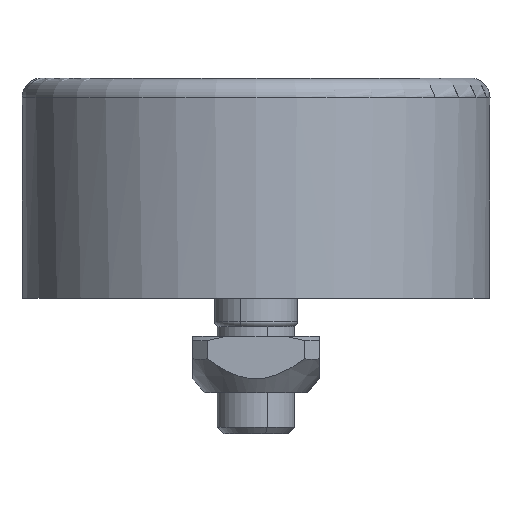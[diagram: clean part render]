
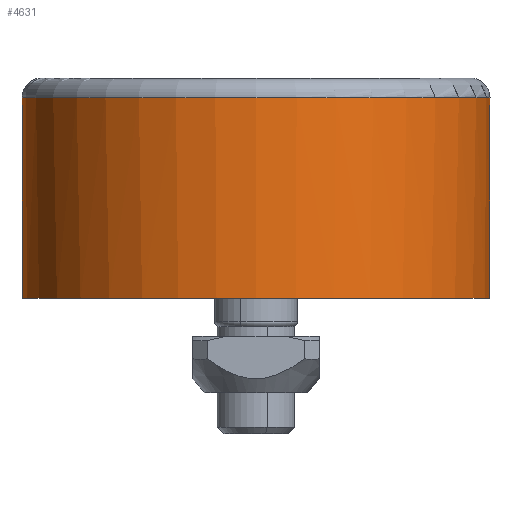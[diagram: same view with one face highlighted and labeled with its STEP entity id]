
A CAD part, left-side view. The second image highlights one B-rep face of the part: STEP entity #4631.
In plain terms, the highlighted cylindrical face has radius 24 mm (diameter 48 mm), a partial arc.
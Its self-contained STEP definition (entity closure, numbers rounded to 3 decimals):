
#239 = CARTESIAN_POINT ( 'NONE',  ( -210.115, -3.173, 16.549 ) ) ;
#609 = DIRECTION ( 'NONE',  ( -1., 0., 0. ) ) ;
#623 = CARTESIAN_POINT ( 'NONE',  ( -206.123, -49.969, 18.066 ) ) ;
#688 = CARTESIAN_POINT ( 'NONE',  ( -210.115, -50.798, 16.549 ) ) ;
#820 = CARTESIAN_POINT ( 'NONE',  ( -205.14, -49.649, 18.4 ) ) ;
#1263 = CARTESIAN_POINT ( 'NONE',  ( -206.123, -4.002, 18.066 ) ) ;
#1288 = ORIENTED_EDGE ( 'NONE', *, *, #1897, .F. ) ;
#1370 = FACE_OUTER_BOUND ( 'NONE', #6842, .T. ) ;
#1427 = CYLINDRICAL_SURFACE ( 'NONE', #10050, 24. ) ;
#1550 = CARTESIAN_POINT ( 'NONE',  ( -213.109, -26.986, 25.68 ) ) ;
#1581 = DIRECTION ( 'NONE',  ( 0., 0., -1. ) ) ;
#1665 = EDGE_CURVE ( 'NONE', #7204, #4358, #5493, .T. ) ;
#1741 = VECTOR ( 'NONE', #6844, 1000. ) ;
#1754 = AXIS2_PLACEMENT_3D ( 'NONE', #1550, #4129, #9816 ) ;
#1845 = CARTESIAN_POINT ( 'NONE',  ( -204.159, -4.717, 18.668 ) ) ;
#1897 = EDGE_CURVE ( 'NONE', #9973, #2841, #11030, .T. ) ;
#2133 = VERTEX_POINT ( 'NONE', #1845 ) ;
#2201 = VERTEX_POINT ( 'NONE', #9553 ) ;
#2411 = CARTESIAN_POINT ( 'NONE',  ( -204.159, -4.717, 18.668 ) ) ;
#2528 = CARTESIAN_POINT ( 'NONE',  ( -195.002, -10.32, 22.473 ) ) ;
#2615 = ORIENTED_EDGE ( 'NONE', *, *, #3740, .T. ) ;
#2841 = VERTEX_POINT ( 'NONE', #9202 ) ;
#2966 = CARTESIAN_POINT ( 'NONE',  ( -209.111, -3.316, 16.946 ) ) ;
#3442 = B_SPLINE_CURVE_WITH_KNOTS ( 'NONE', 3,
 ( #9520, #10474, #1263, #7510, #11219, #2966, #5882, #239 ),
 .UNSPECIFIED., .F., .F.,
 ( 4, 2, 2, 4 ),
 ( 0., 0.003, 0.005, 0.007 ),
 .UNSPECIFIED. ) ;
#3740 = EDGE_CURVE ( 'NONE', #7261, #2841, #7797, .T. ) ;
#3745 = EDGE_CURVE ( 'NONE', #2201, #8408, #7498, .T. ) ;
#3912 = ORIENTED_EDGE ( 'NONE', *, *, #6675, .T. ) ;
#4129 = DIRECTION ( 'NONE',  ( 0., 0., -1. ) ) ;
#4143 = EDGE_CURVE ( 'NONE', #2133, #8408, #11738, .T. ) ;
#4160 = LINE ( 'NONE', #5084, #7646 ) ;
#4335 = ORIENTED_EDGE ( 'NONE', *, *, #11536, .T. ) ;
#4358 = VERTEX_POINT ( 'NONE', #6631 ) ;
#4388 = CARTESIAN_POINT ( 'NONE',  ( -199.108, -6.747, 20.046 ) ) ;
#4631 = ADVANCED_FACE ( 'NONE', ( #1370 ), #1427, .T. ) ;
#4794 = CARTESIAN_POINT ( 'NONE',  ( -210.115, -50.798, 5.08 ) ) ;
#5084 = CARTESIAN_POINT ( 'NONE',  ( -210.115, -50.798, 15.18 ) ) ;
#5161 = CARTESIAN_POINT ( 'NONE',  ( -213.109, -26.986, 15.18 ) ) ;
#5272 = CARTESIAN_POINT ( 'NONE',  ( -208.109, -50.482, 17.34 ) ) ;
#5359 = CARTESIAN_POINT ( 'NONE',  ( -204.159, -49.255, 18.668 ) ) ;
#5493 = B_SPLINE_CURVE_WITH_KNOTS ( 'NONE', 3,
 ( #7916, #7011, #5272, #623, #820, #8937 ),
 .UNSPECIFIED., .F., .F.,
 ( 4, 2, 4 ),
 ( 0., 0.003, 0.006 ),
 .UNSPECIFIED. ) ;
#5522 = ORIENTED_EDGE ( 'NONE', *, *, #1665, .T. ) ;
#5807 = EDGE_CURVE ( 'NONE', #2201, #4358, #7641, .T. ) ;
#5882 = CARTESIAN_POINT ( 'NONE',  ( -209.613, -3.236, 16.747 ) ) ;
#6038 = DIRECTION ( 'NONE',  ( 0., 0., 1. ) ) ;
#6631 = CARTESIAN_POINT ( 'NONE',  ( -204.159, -49.255, 18.668 ) ) ;
#6675 = EDGE_CURVE ( 'NONE', #9973, #7204, #4160, .T. ) ;
#6842 = EDGE_LOOP ( 'NONE', ( #2615, #1288, #3912, #5522, #8833, #8682, #8504, #4335 ) ) ;
#6844 = DIRECTION ( 'NONE',  ( 0., 0., -1. ) ) ;
#7011 = CARTESIAN_POINT ( 'NONE',  ( -209.11, -50.672, 16.946 ) ) ;
#7050 = CARTESIAN_POINT ( 'NONE',  ( -213.109, -26.986, 5.08 ) ) ;
#7204 = VERTEX_POINT ( 'NONE', #688 ) ;
#7261 = VERTEX_POINT ( 'NONE', #8248 ) ;
#7397 = CARTESIAN_POINT ( 'NONE',  ( -195.002, -43.652, 22.473 ) ) ;
#7498 = CIRCLE ( 'NONE', #1754, 24. ) ;
#7510 = CARTESIAN_POINT ( 'NONE',  ( -207.612, -3.618, 17.522 ) ) ;
#7641 =( BOUNDED_CURVE ( )  B_SPLINE_CURVE ( 3, ( #10079, #7397, #10929, #5359 ),
 .UNSPECIFIED., .F., .T. ) 
 B_SPLINE_CURVE_WITH_KNOTS ( ( 4, 4 ),
 ( 2.092, 2.759 ),
 .UNSPECIFIED. ) 
 CURVE ( )  GEOMETRIC_REPRESENTATION_ITEM ( )  RATIONAL_B_SPLINE_CURVE ( ( 1., 0.963, 0.963, 1. ) ) 
 REPRESENTATION_ITEM ( '' )  );
#7646 = VECTOR ( 'NONE', #6038, 1000. ) ;
#7797 = LINE ( 'NONE', #11553, #1741 ) ;
#7916 = CARTESIAN_POINT ( 'NONE',  ( -210.115, -50.798, 16.549 ) ) ;
#8104 = AXIS2_PLACEMENT_3D ( 'NONE', #7050, #1581, #609 ) ;
#8248 = CARTESIAN_POINT ( 'NONE',  ( -210.115, -3.173, 16.549 ) ) ;
#8408 = VERTEX_POINT ( 'NONE', #8757 ) ;
#8504 = ORIENTED_EDGE ( 'NONE', *, *, #4143, .F. ) ;
#8682 = ORIENTED_EDGE ( 'NONE', *, *, #3745, .T. ) ;
#8757 = CARTESIAN_POINT ( 'NONE',  ( -192.292, -15.041, 25.68 ) ) ;
#8833 = ORIENTED_EDGE ( 'NONE', *, *, #5807, .F. ) ;
#8937 = CARTESIAN_POINT ( 'NONE',  ( -204.159, -49.255, 18.668 ) ) ;
#9202 = CARTESIAN_POINT ( 'NONE',  ( -210.115, -3.173, 5.08 ) ) ;
#9520 = CARTESIAN_POINT ( 'NONE',  ( -204.159, -4.717, 18.668 ) ) ;
#9553 = CARTESIAN_POINT ( 'NONE',  ( -192.292, -38.93, 25.68 ) ) ;
#9564 = DIRECTION ( 'NONE',  ( 0., 0., 1. ) ) ;
#9816 = DIRECTION ( 'NONE',  ( 1., 0., 0. ) ) ;
#9973 = VERTEX_POINT ( 'NONE', #4794 ) ;
#10050 = AXIS2_PLACEMENT_3D ( 'NONE', #5161, #9564, #10525 ) ;
#10079 = CARTESIAN_POINT ( 'NONE',  ( -192.292, -38.93, 25.68 ) ) ;
#10474 = CARTESIAN_POINT ( 'NONE',  ( -205.141, -4.323, 18.4 ) ) ;
#10525 = DIRECTION ( 'NONE',  ( 1., 0., 0. ) ) ;
#10929 = CARTESIAN_POINT ( 'NONE',  ( -199.108, -47.225, 20.046 ) ) ;
#11030 = CIRCLE ( 'NONE', #8104, 24. ) ;
#11219 = CARTESIAN_POINT ( 'NONE',  ( -208.111, -3.506, 17.332 ) ) ;
#11536 = EDGE_CURVE ( 'NONE', #2133, #7261, #3442, .T. ) ;
#11553 = CARTESIAN_POINT ( 'NONE',  ( -210.115, -3.173, 15.18 ) ) ;
#11589 = CARTESIAN_POINT ( 'NONE',  ( -192.292, -15.041, 25.68 ) ) ;
#11738 =( BOUNDED_CURVE ( )  B_SPLINE_CURVE ( 3, ( #2411, #4388, #2528, #11589 ),
 .UNSPECIFIED., .F., .T. ) 
 B_SPLINE_CURVE_WITH_KNOTS ( ( 4, 4 ),
 ( 3.524, 4.191 ),
 .UNSPECIFIED. ) 
 CURVE ( )  GEOMETRIC_REPRESENTATION_ITEM ( )  RATIONAL_B_SPLINE_CURVE ( ( 1., 0.963, 0.963, 1. ) ) 
 REPRESENTATION_ITEM ( '' )  );
